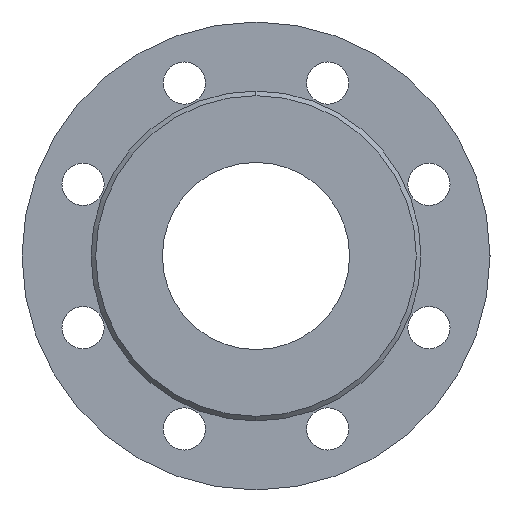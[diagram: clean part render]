
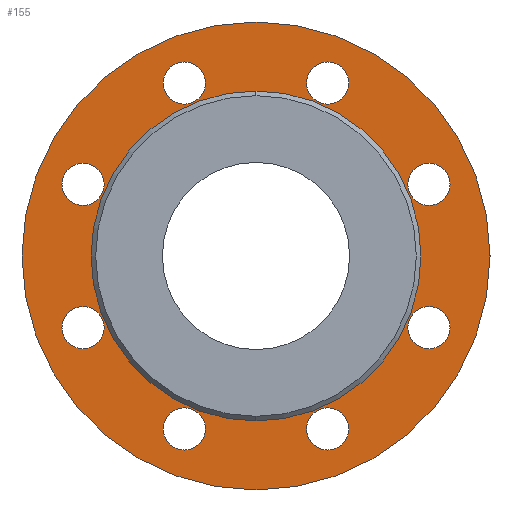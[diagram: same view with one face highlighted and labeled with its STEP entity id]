
A CAD part, left-side view. The second image highlights one B-rep face of the part: STEP entity #155.
In plain terms, the highlighted planar face has unit normal (-1, 0, 0).
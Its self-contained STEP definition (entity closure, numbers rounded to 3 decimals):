
#155=ADVANCED_FACE('',(#339,#340,#341,#342,#343,#344,#345,#346,#347,#348),#349,.F.);
#339=FACE_BOUND('',#602,.T.);
#340=FACE_BOUND('',#603,.T.);
#341=FACE_BOUND('',#604,.T.);
#342=FACE_BOUND('',#605,.T.);
#343=FACE_BOUND('',#606,.T.);
#344=FACE_BOUND('',#607,.T.);
#345=FACE_BOUND('',#608,.T.);
#346=FACE_BOUND('',#609,.T.);
#347=FACE_BOUND('',#610,.T.);
#348=FACE_OUTER_BOUND('',#611,.T.);
#349=PLANE('',#612);
#602=EDGE_LOOP('',(#908,#909));
#603=EDGE_LOOP('',(#910,#911));
#604=EDGE_LOOP('',(#912,#913));
#605=EDGE_LOOP('',(#914,#915));
#606=EDGE_LOOP('',(#916,#917));
#607=EDGE_LOOP('',(#918,#919));
#608=EDGE_LOOP('',(#920,#921));
#609=EDGE_LOOP('',(#922,#923));
#610=EDGE_LOOP('',(#924,#925));
#611=EDGE_LOOP('',(#926,#927));
#612=AXIS2_PLACEMENT_3D('',#928,#929,#930);
#908=ORIENTED_EDGE('',*,*,#1353,.T.);
#909=ORIENTED_EDGE('',*,*,#1430,.T.);
#910=ORIENTED_EDGE('',*,*,#1399,.T.);
#911=ORIENTED_EDGE('',*,*,#1431,.T.);
#912=ORIENTED_EDGE('',*,*,#1432,.T.);
#913=ORIENTED_EDGE('',*,*,#1433,.T.);
#914=ORIENTED_EDGE('',*,*,#1434,.T.);
#915=ORIENTED_EDGE('',*,*,#1427,.T.);
#916=ORIENTED_EDGE('',*,*,#1360,.T.);
#917=ORIENTED_EDGE('',*,*,#1435,.T.);
#918=ORIENTED_EDGE('',*,*,#1436,.T.);
#919=ORIENTED_EDGE('',*,*,#1437,.T.);
#920=ORIENTED_EDGE('',*,*,#1438,.T.);
#921=ORIENTED_EDGE('',*,*,#1439,.T.);
#922=ORIENTED_EDGE('',*,*,#1440,.T.);
#923=ORIENTED_EDGE('',*,*,#1441,.T.);
#924=ORIENTED_EDGE('',*,*,#1442,.T.);
#925=ORIENTED_EDGE('',*,*,#1443,.T.);
#926=ORIENTED_EDGE('',*,*,#1444,.F.);
#927=ORIENTED_EDGE('',*,*,#1445,.F.);
#928=CARTESIAN_POINT('',(2.0,0.0,0.));
#929=DIRECTION('',(1.0,0.0,0.));
#930=DIRECTION('',(0.,0.0,-1.0));
#1353=EDGE_CURVE('',#1578,#1576,#1579,.T.);
#1360=EDGE_CURVE('',#1585,#1589,#1591,.T.);
#1399=EDGE_CURVE('',#1656,#1658,#1660,.T.);
#1427=EDGE_CURVE('',#1709,#1707,#1710,.T.);
#1430=EDGE_CURVE('',#1576,#1578,#1713,.T.);
#1431=EDGE_CURVE('',#1658,#1656,#1714,.T.);
#1432=EDGE_CURVE('',#1715,#1716,#1717,.T.);
#1433=EDGE_CURVE('',#1716,#1715,#1718,.T.);
#1434=EDGE_CURVE('',#1707,#1709,#1719,.T.);
#1435=EDGE_CURVE('',#1589,#1585,#1720,.T.);
#1436=EDGE_CURVE('',#1721,#1722,#1723,.T.);
#1437=EDGE_CURVE('',#1722,#1721,#1724,.T.);
#1438=EDGE_CURVE('',#1725,#1726,#1727,.T.);
#1439=EDGE_CURVE('',#1726,#1725,#1728,.T.);
#1440=EDGE_CURVE('',#1729,#1730,#1731,.T.);
#1441=EDGE_CURVE('',#1730,#1729,#1732,.T.);
#1442=EDGE_CURVE('',#1733,#1734,#1735,.T.);
#1443=EDGE_CURVE('',#1734,#1733,#1736,.T.);
#1444=EDGE_CURVE('',#1737,#1738,#1739,.T.);
#1445=EDGE_CURVE('',#1738,#1737,#1740,.T.);
#1576=VERTEX_POINT('',#1903);
#1578=VERTEX_POINT('',#1906);
#1579=CIRCLE('',#1907,40.0);
#1585=VERTEX_POINT('',#1914);
#1589=VERTEX_POINT('',#1919);
#1591=CIRCLE('',#1922,9.0);
#1656=VERTEX_POINT('',#1993);
#1658=VERTEX_POINT('',#1996);
#1660=CIRCLE('',#1999,9.0);
#1707=VERTEX_POINT('',#2056);
#1709=VERTEX_POINT('',#2059);
#1710=CIRCLE('',#2060,9.0);
#1713=CIRCLE('',#2064,40.0);
#1714=CIRCLE('',#2065,9.0);
#1715=VERTEX_POINT('',#2066);
#1716=VERTEX_POINT('',#2067);
#1717=CIRCLE('',#2068,9.0);
#1718=CIRCLE('',#2069,9.0);
#1719=CIRCLE('',#2070,9.0);
#1720=CIRCLE('',#2071,9.0);
#1721=VERTEX_POINT('',#2072);
#1722=VERTEX_POINT('',#2073);
#1723=CIRCLE('',#2074,9.0);
#1724=CIRCLE('',#2075,9.0);
#1725=VERTEX_POINT('',#2076);
#1726=VERTEX_POINT('',#2077);
#1727=CIRCLE('',#2078,9.0);
#1728=CIRCLE('',#2079,9.0);
#1729=VERTEX_POINT('',#2080);
#1730=VERTEX_POINT('',#2081);
#1731=CIRCLE('',#2082,9.0);
#1732=CIRCLE('',#2083,9.0);
#1733=VERTEX_POINT('',#2084);
#1734=VERTEX_POINT('',#2085);
#1735=CIRCLE('',#2086,9.0);
#1736=CIRCLE('',#2087,9.0);
#1737=VERTEX_POINT('',#2088);
#1738=VERTEX_POINT('',#2089);
#1739=CIRCLE('',#2090,100.0);
#1740=CIRCLE('',#2091,100.0);
#1903=CARTESIAN_POINT('',(2.0,0.,-40.0));
#1906=CARTESIAN_POINT('',(2.0,0.,40.0));
#1907=AXIS2_PLACEMENT_3D('',#2281,#2282,#2283);
#1914=CARTESIAN_POINT('',(2.0,-30.615,64.91));
#1919=CARTESIAN_POINT('',(2.0,-30.615,82.91));
#1922=AXIS2_PLACEMENT_3D('',#2293,#2294,#2295);
#1993=CARTESIAN_POINT('',(2.0,73.91,-39.615));
#1996=CARTESIAN_POINT('',(2.0,73.91,-21.615));
#1999=AXIS2_PLACEMENT_3D('',#2376,#2377,#2378);
#2056=CARTESIAN_POINT('',(2.0,-73.91,21.615));
#2059=CARTESIAN_POINT('',(2.0,-73.91,39.615));
#2060=AXIS2_PLACEMENT_3D('',#2420,#2421,#2422);
#2064=AXIS2_PLACEMENT_3D('',#2424,#2425,#2426);
#2065=AXIS2_PLACEMENT_3D('',#2427,#2428,#2429);
#2066=CARTESIAN_POINT('',(2.0,30.615,-82.91));
#2067=CARTESIAN_POINT('',(2.0,30.615,-64.91));
#2068=AXIS2_PLACEMENT_3D('',#2430,#2431,#2432);
#2069=AXIS2_PLACEMENT_3D('',#2433,#2434,#2435);
#2070=AXIS2_PLACEMENT_3D('',#2436,#2437,#2438);
#2071=AXIS2_PLACEMENT_3D('',#2439,#2440,#2441);
#2072=CARTESIAN_POINT('',(2.0,73.91,21.615));
#2073=CARTESIAN_POINT('',(2.0,73.91,39.615));
#2074=AXIS2_PLACEMENT_3D('',#2442,#2443,#2444);
#2075=AXIS2_PLACEMENT_3D('',#2445,#2446,#2447);
#2076=CARTESIAN_POINT('',(2.0,30.615,64.91));
#2077=CARTESIAN_POINT('',(2.0,30.615,82.91));
#2078=AXIS2_PLACEMENT_3D('',#2448,#2449,#2450);
#2079=AXIS2_PLACEMENT_3D('',#2451,#2452,#2453);
#2080=CARTESIAN_POINT('',(2.0,-73.91,-39.615));
#2081=CARTESIAN_POINT('',(2.0,-73.91,-21.615));
#2082=AXIS2_PLACEMENT_3D('',#2454,#2455,#2456);
#2083=AXIS2_PLACEMENT_3D('',#2457,#2458,#2459);
#2084=CARTESIAN_POINT('',(2.0,-30.615,-82.91));
#2085=CARTESIAN_POINT('',(2.0,-30.615,-64.91));
#2086=AXIS2_PLACEMENT_3D('',#2460,#2461,#2462);
#2087=AXIS2_PLACEMENT_3D('',#2463,#2464,#2465);
#2088=CARTESIAN_POINT('',(2.,0.0,-100.0));
#2089=CARTESIAN_POINT('',(2.,0.,100.0));
#2090=AXIS2_PLACEMENT_3D('',#2466,#2467,#2468);
#2091=AXIS2_PLACEMENT_3D('',#2469,#2470,#2471);
#2281=CARTESIAN_POINT('',(2.0,0.0,0.));
#2282=DIRECTION('',(1.0,0.0,0.));
#2283=DIRECTION('',(0.,0.0,-1.0));
#2293=CARTESIAN_POINT('',(2.0,-30.615,73.91));
#2294=DIRECTION('',(1.0,0.0,0.));
#2295=DIRECTION('',(0.,0.0,-1.0));
#2376=CARTESIAN_POINT('',(2.0,73.91,-30.615));
#2377=DIRECTION('',(1.0,0.0,0.));
#2378=DIRECTION('',(0.,0.0,-1.0));
#2420=CARTESIAN_POINT('',(2.0,-73.91,30.615));
#2421=DIRECTION('',(1.0,0.0,0.));
#2422=DIRECTION('',(0.,0.0,-1.0));
#2424=CARTESIAN_POINT('',(2.0,0.0,0.));
#2425=DIRECTION('',(1.0,0.0,0.));
#2426=DIRECTION('',(0.,0.0,-1.0));
#2427=CARTESIAN_POINT('',(2.0,73.91,-30.615));
#2428=DIRECTION('',(1.0,0.0,0.));
#2429=DIRECTION('',(0.,0.0,-1.0));
#2430=CARTESIAN_POINT('',(2.0,30.615,-73.91));
#2431=DIRECTION('',(1.0,0.0,0.));
#2432=DIRECTION('',(0.,0.0,-1.0));
#2433=CARTESIAN_POINT('',(2.0,30.615,-73.91));
#2434=DIRECTION('',(1.0,0.0,0.));
#2435=DIRECTION('',(0.,0.0,-1.0));
#2436=CARTESIAN_POINT('',(2.0,-73.91,30.615));
#2437=DIRECTION('',(1.0,0.0,0.));
#2438=DIRECTION('',(0.,0.0,-1.0));
#2439=CARTESIAN_POINT('',(2.0,-30.615,73.91));
#2440=DIRECTION('',(1.0,0.0,0.));
#2441=DIRECTION('',(0.,0.0,-1.0));
#2442=CARTESIAN_POINT('',(2.0,73.91,30.615));
#2443=DIRECTION('',(1.0,0.0,0.));
#2444=DIRECTION('',(0.,0.0,-1.0));
#2445=CARTESIAN_POINT('',(2.0,73.91,30.615));
#2446=DIRECTION('',(1.0,0.0,0.));
#2447=DIRECTION('',(0.,0.0,-1.0));
#2448=CARTESIAN_POINT('',(2.0,30.615,73.91));
#2449=DIRECTION('',(1.0,0.0,0.));
#2450=DIRECTION('',(0.,0.0,-1.0));
#2451=CARTESIAN_POINT('',(2.0,30.615,73.91));
#2452=DIRECTION('',(1.0,0.0,0.));
#2453=DIRECTION('',(0.,0.0,-1.0));
#2454=CARTESIAN_POINT('',(2.0,-73.91,-30.615));
#2455=DIRECTION('',(1.0,0.0,0.));
#2456=DIRECTION('',(0.,0.0,-1.0));
#2457=CARTESIAN_POINT('',(2.0,-73.91,-30.615));
#2458=DIRECTION('',(1.0,0.0,0.));
#2459=DIRECTION('',(0.,0.0,-1.0));
#2460=CARTESIAN_POINT('',(2.0,-30.615,-73.91));
#2461=DIRECTION('',(1.0,0.0,0.));
#2462=DIRECTION('',(0.,0.0,-1.0));
#2463=CARTESIAN_POINT('',(2.0,-30.615,-73.91));
#2464=DIRECTION('',(1.0,0.0,0.));
#2465=DIRECTION('',(0.,0.0,-1.0));
#2466=CARTESIAN_POINT('',(2.0,0.0,0.));
#2467=DIRECTION('',(1.0,0.0,0.));
#2468=DIRECTION('',(0.,0.0,-1.0));
#2469=CARTESIAN_POINT('',(2.0,0.0,0.));
#2470=DIRECTION('',(1.0,0.0,0.));
#2471=DIRECTION('',(0.,0.0,-1.0));
